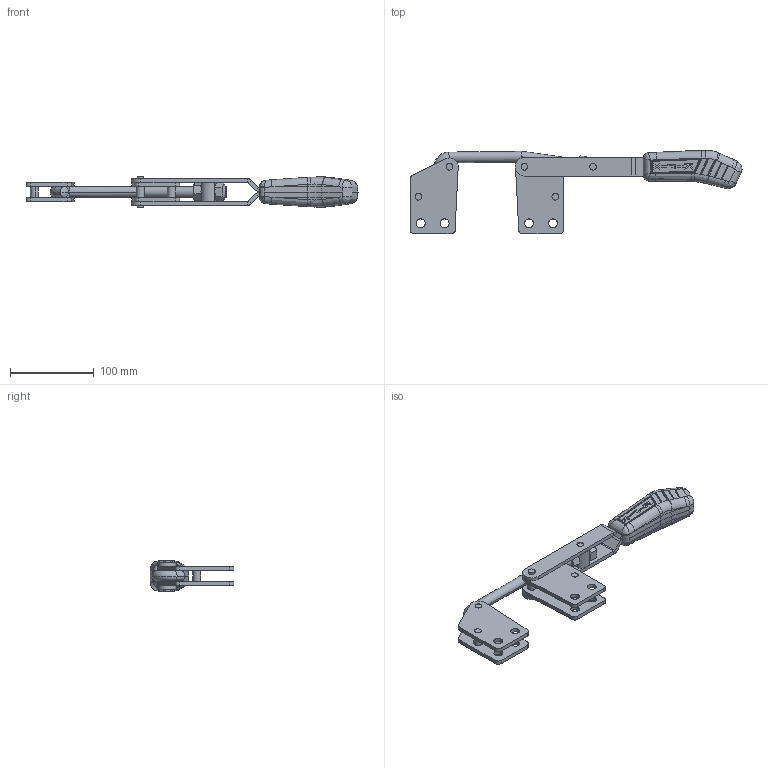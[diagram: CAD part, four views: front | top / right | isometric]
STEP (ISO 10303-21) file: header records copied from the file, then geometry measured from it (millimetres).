
FILE_DESCRIPTION (( 'STEP AP203' ), '1' );
FILE_NAME ('KF-553 R.STEP', '2014-08-21T18:50:42', ( 'Ricardo' ), ( '' ), 'SwSTEP 2.0', 'SolidWorks 2013', '' );
FILE_SCHEMA (( 'CONFIG_CONTROL_DESIGN' ));
Length unit declared in the file: millimetre
Products named in the file (11): KF-553 R; 01.10064_Esquerda; 16.20009; 16.20010; 16.20011; 03.20007; 11.50024; 11.50004; 02.11044; 07.60003; 01.10064_Direita
Assembly tree (15 placements, depth 2):
  KF-553 R
    02.11044  x4
    01.10064_Direita
    01.10064_Esquerda
    16.20009  x3
    16.20010
    16.20011
    03.20007
    11.50024
    11.50004
    07.60003
Bounding box: 395.83 x 99.84 x 36.5 mm (x, y, z)
Volume: 277423.3 mm3; surface area: 106824 mm2
Topology: 15 solids, 15 shells, 638 faces, 1594 edges, 1004 vertices
Faces by surface type: plane 213, cylinder 209, bspline 143, sphere 50, cone 18, torus 5
Entity records: 21518 total; most frequent: CARTESIAN_POINT 8422, ORIENTED_EDGE 2752, DIRECTION 2033, EDGE_CURVE 1376, VERTEX_POINT 864, AXIS2_PLACEMENT_3D 809, EDGE_LOOP 610, FACE_OUTER_BOUND 558
